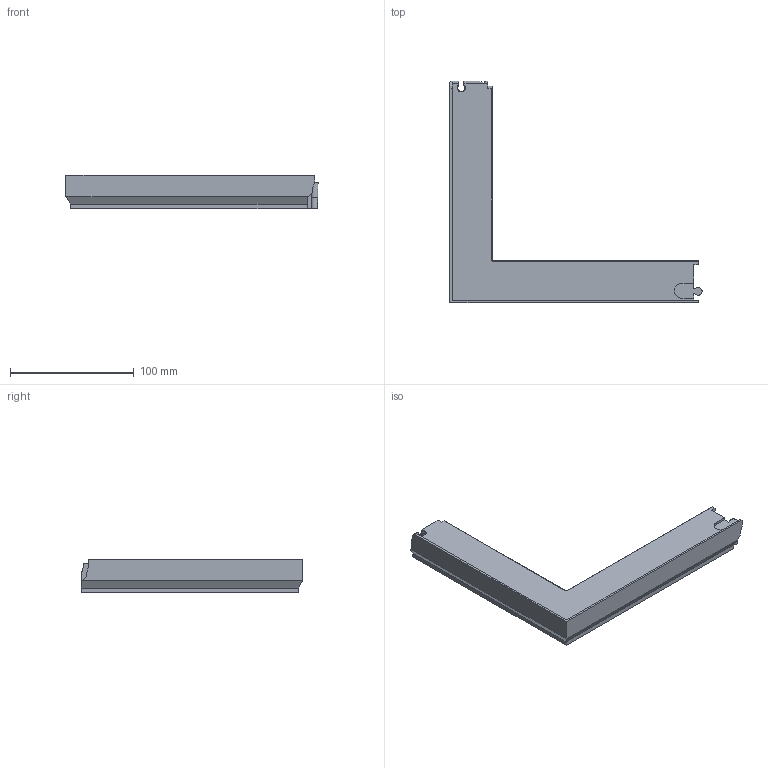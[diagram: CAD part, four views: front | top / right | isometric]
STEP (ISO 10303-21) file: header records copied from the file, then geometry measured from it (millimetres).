
FILE_DESCRIPTION(('Open CASCADE Model'),'2;1');
FILE_NAME('Open CASCADE Shape Model','2026-10-27T10:19:23',('Author'),( 'Open CASCADE'),'Open CASCADE STEP processor 8.0','build123d', 'Unknown');
FILE_SCHEMA(('AUTOMOTIVE_DESIGN { 1 0 10303 214 1 1 1 1 }'));
Products named in the file (1): SOLID
Bounding box: 203.88 x 179.1 x 26.9 mm (x, y, z)
Volume: 188523.9 mm3; surface area: 48171 mm2
Topology: 1 solids, 1 shells, 2242 faces, 4800 edges, 2561 vertices
Faces by surface type: bspline 1847, plane 387, cone 6, cylinder 2
Entity records: 116226 total; most frequent: CARTESIAN_POINT 30697, DIRECTION 10796, LINE 9977, VECTOR 9977, ORIENTED_EDGE 9600, PCURVE 9600, DEFINITIONAL_REPRESENTATION 9600, EDGE_CURVE 4800
